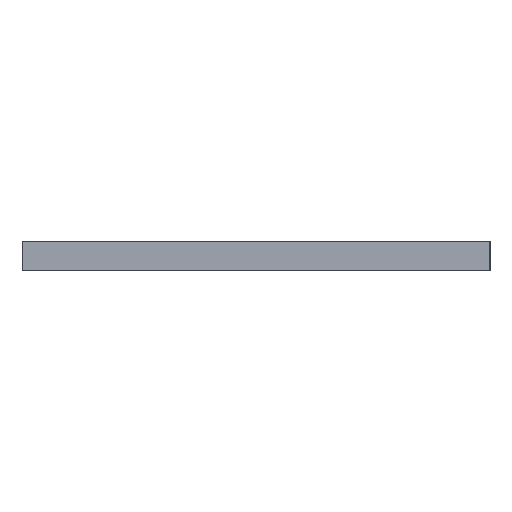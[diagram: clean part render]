
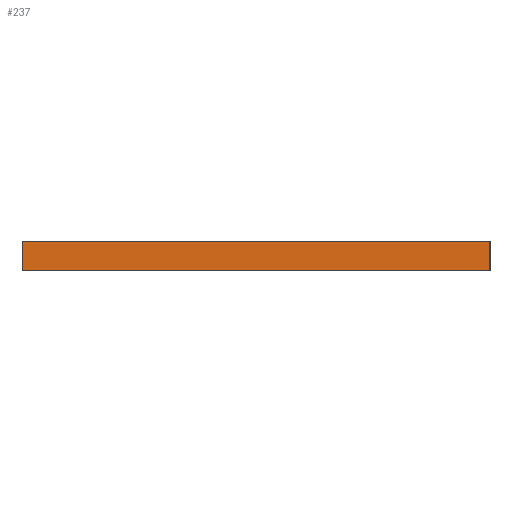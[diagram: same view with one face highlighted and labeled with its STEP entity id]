
A CAD part, left-side view. The second image highlights one B-rep face of the part: STEP entity #237.
In plain terms, the highlighted planar face has unit normal (-1, 0, 0).
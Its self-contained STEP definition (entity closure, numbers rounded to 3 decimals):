
#214 = EDGE_CURVE ( 'NONE', #2653, #378, #1101, .T. ) ;
#215 = ORIENTED_EDGE ( 'NONE', *, *, #2651, .F. ) ;
#216 = ORIENTED_EDGE ( 'NONE', *, *, #217, .T. ) ;
#217 = EDGE_CURVE ( 'NONE', #2652, #377, #1097, .T. ) ;
#237 = ADVANCED_FACE ( 'NONE', ( #1203 ), #1202, .F. ) ;
#238 = EDGE_LOOP ( 'NONE', ( #239, #240, #215, #216 ) ) ;
#239 = ORIENTED_EDGE ( 'NONE', *, *, #376, .T. ) ;
#240 = ORIENTED_EDGE ( 'NONE', *, *, #214, .F. ) ;
#376 = EDGE_CURVE ( 'NONE', #377, #378, #1384, .T. ) ;
#377 = VERTEX_POINT ( 'NONE', #1463 ) ;
#378 = VERTEX_POINT ( 'NONE', #1462 ) ;
#1094 = DIRECTION ( 'NONE',  ( 0., 0., -1. ) ) ;
#1095 = VECTOR ( 'NONE', #1094, 1000. ) ;
#1096 = CARTESIAN_POINT ( 'NONE',  ( -110., 62.5, 8. ) ) ;
#1097 = LINE ( 'NONE', #1096, #1095 ) ;
#1098 = DIRECTION ( 'NONE',  ( 0., 0., -1. ) ) ;
#1099 = VECTOR ( 'NONE', #1098, 1000. ) ;
#1100 = CARTESIAN_POINT ( 'NONE',  ( -110., -62.5, 8. ) ) ;
#1101 = LINE ( 'NONE', #1100, #1099 ) ;
#1198 = DIRECTION ( 'NONE',  ( 0., 0., -1. ) ) ;
#1199 = DIRECTION ( 'NONE',  ( 1., 0., 0. ) ) ;
#1200 = CARTESIAN_POINT ( 'NONE',  ( -110., 62.5, 8. ) ) ;
#1201 = AXIS2_PLACEMENT_3D ( 'NONE', #1200, #1199, #1198 ) ;
#1202 = PLANE ( 'NONE',  #1201 ) ;
#1203 = FACE_OUTER_BOUND ( 'NONE', #238, .T. ) ;
#1377 = DIRECTION ( 'NONE',  ( 0., -1., 0. ) ) ;
#1378 = CARTESIAN_POINT ( 'NONE',  ( -110., 62.5, 0. ) ) ;
#1384 = LINE ( 'NONE', #1378, #1464 ) ;
#1462 = CARTESIAN_POINT ( 'NONE',  ( -110., -62.5, 0. ) ) ;
#1463 = CARTESIAN_POINT ( 'NONE',  ( -110., 62.5, 0. ) ) ;
#1464 = VECTOR ( 'NONE', #1377, 1000. ) ;
#1758 = CARTESIAN_POINT ( 'NONE',  ( -110., 62.5, 8. ) ) ;
#1759 = LINE ( 'NONE', #1758, #1997 ) ;
#1994 = CARTESIAN_POINT ( 'NONE',  ( -110., -62.5, 8. ) ) ;
#1995 = CARTESIAN_POINT ( 'NONE',  ( -110., 62.5, 8. ) ) ;
#1996 = DIRECTION ( 'NONE',  ( 0., -1., 0. ) ) ;
#1997 = VECTOR ( 'NONE', #1996, 1000. ) ;
#2651 = EDGE_CURVE ( 'NONE', #2652, #2653, #1759, .T. ) ;
#2652 = VERTEX_POINT ( 'NONE', #1995 ) ;
#2653 = VERTEX_POINT ( 'NONE', #1994 ) ;
